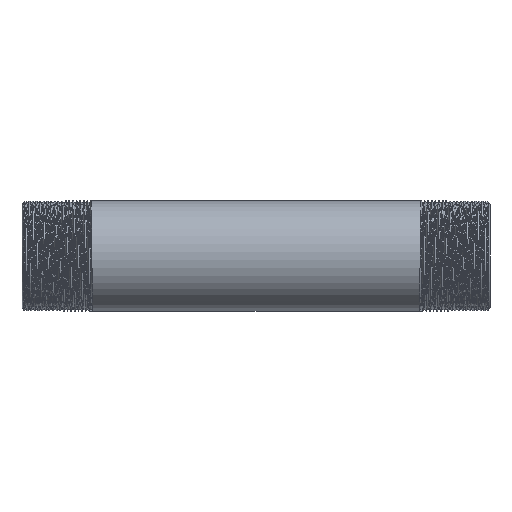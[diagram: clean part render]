
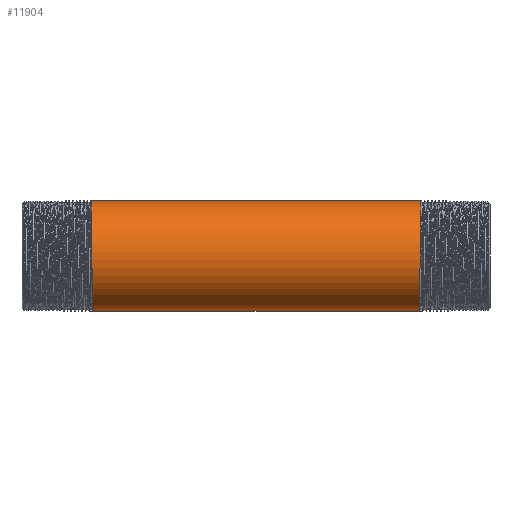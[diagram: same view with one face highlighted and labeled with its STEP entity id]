
A CAD part, front view. The second image highlights one B-rep face of the part: STEP entity #11904.
In plain terms, the highlighted cylindrical face has radius 10.65 mm (diameter 21.3 mm), a partial arc.
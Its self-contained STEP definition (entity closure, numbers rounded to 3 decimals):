
#827 = DIRECTION ( 'NONE',  ( -1., 0., 0. ) ) ;
#974 = CARTESIAN_POINT ( 'NONE',  ( -149.494, 0., 10.65 ) ) ;
#1012 = CARTESIAN_POINT ( 'NONE',  ( -31.446, -6.149, -10.65 ) ) ;
#1216 = VECTOR ( 'NONE', #9515, 1000. ) ;
#2406 = CARTESIAN_POINT ( 'NONE',  ( 31.621, -9.223, 5.325 ) ) ;
#2761 = CARTESIAN_POINT ( 'NONE',  ( -149.494, 0., -10.65 ) ) ;
#3285 = VECTOR ( 'NONE', #827, 1000. ) ;
#3334 = CYLINDRICAL_SURFACE ( 'NONE', #12228, 10.65 ) ;
#3737 = CARTESIAN_POINT ( 'NONE',  ( 31.446, -6.149, -10.65 ) ) ;
#3877 = CARTESIAN_POINT ( 'NONE',  ( 31.679, -6.149, 10.65 ) ) ;
#3910 = VERTEX_POINT ( 'NONE', #11352 ) ;
#4835 = ORIENTED_EDGE ( 'NONE', *, *, #9713, .T. ) ;
#5060 = LINE ( 'NONE', #2761, #3285 ) ;
#6119 = CARTESIAN_POINT ( 'NONE',  ( 31.738, 0., 10.65 ) ) ;
#6500 = DIRECTION ( 'NONE',  ( 0., 0., 1. ) ) ;
#6520 = LINE ( 'NONE', #974, #1216 ) ;
#6648 = CARTESIAN_POINT ( 'NONE',  ( -149.494, 0., 0. ) ) ;
#6762 = CARTESIAN_POINT ( 'NONE',  ( -31.679, -6.149, 10.65 ) ) ;
#7232 = EDGE_CURVE ( 'NONE', #3910, #10670, #6520, .T. ) ;
#7706 = CARTESIAN_POINT ( 'NONE',  ( -31.621, -9.223, 5.325 ) ) ;
#7722 = DIRECTION ( 'NONE',  ( -1., 0., 0. ) ) ;
#7776 = CARTESIAN_POINT ( 'NONE',  ( -31.563, -12.298, 0. ) ) ;
#7788 = CARTESIAN_POINT ( 'NONE',  ( -31.388, 0., -10.65 ) ) ;
#7842 = EDGE_CURVE ( 'NONE', #9894, #10670, #13400, .T. ) ;
#8133 = CARTESIAN_POINT ( 'NONE',  ( 31.504, -9.223, -5.325 ) ) ;
#8500 = CARTESIAN_POINT ( 'NONE',  ( -31.738, 0., 10.65 ) ) ;
#8722 = ORIENTED_EDGE ( 'NONE', *, *, #7842, .F. ) ;
#8800 = FACE_OUTER_BOUND ( 'NONE', #9626, .T. ) ;
#9438 =( BOUNDED_CURVE ( )  B_SPLINE_CURVE ( 2, ( #11586, #3737, #8133, #12261, #2406, #3877, #6119 ),
 .UNSPECIFIED., .F., .F. ) 
 B_SPLINE_CURVE_WITH_KNOTS ( ( 3, 2, 2, 3 ),
 ( 0., 0.006, 0.013, 0.019 ),
 .UNSPECIFIED. ) 
 CURVE ( )  GEOMETRIC_REPRESENTATION_ITEM ( )  RATIONAL_B_SPLINE_CURVE ( ( 1., 0.866, 1., 0.866, 1., 0.866, 1. ) ) 
 REPRESENTATION_ITEM ( '' )  );
#9515 = DIRECTION ( 'NONE',  ( -1., 0., 0. ) ) ;
#9609 = ORIENTED_EDGE ( 'NONE', *, *, #7232, .T. ) ;
#9626 = EDGE_LOOP ( 'NONE', ( #11705, #4835, #9609, #8722 ) ) ;
#9713 = EDGE_CURVE ( 'NONE', #12052, #3910, #9438, .T. ) ;
#9894 = VERTEX_POINT ( 'NONE', #7788 ) ;
#10060 = CARTESIAN_POINT ( 'NONE',  ( -31.388, 0., -10.65 ) ) ;
#10670 = VERTEX_POINT ( 'NONE', #8500 ) ;
#10872 = CARTESIAN_POINT ( 'NONE',  ( -31.738, 0., 10.65 ) ) ;
#11352 = CARTESIAN_POINT ( 'NONE',  ( 31.738, 0., 10.65 ) ) ;
#11586 = CARTESIAN_POINT ( 'NONE',  ( 31.388, 0., -10.65 ) ) ;
#11705 = ORIENTED_EDGE ( 'NONE', *, *, #13695, .F. ) ;
#11904 = ADVANCED_FACE ( 'NONE', ( #8800 ), #3334, .T. ) ;
#12052 = VERTEX_POINT ( 'NONE', #13253 ) ;
#12223 = CARTESIAN_POINT ( 'NONE',  ( -31.504, -9.223, -5.325 ) ) ;
#12228 = AXIS2_PLACEMENT_3D ( 'NONE', #6648, #7722, #6500 ) ;
#12261 = CARTESIAN_POINT ( 'NONE',  ( 31.563, -12.298, 0. ) ) ;
#13253 = CARTESIAN_POINT ( 'NONE',  ( 31.388, 0., -10.65 ) ) ;
#13400 =( BOUNDED_CURVE ( )  B_SPLINE_CURVE ( 2, ( #10060, #1012, #12223, #7776, #7706, #6762, #10872 ),
 .UNSPECIFIED., .F., .F. ) 
 B_SPLINE_CURVE_WITH_KNOTS ( ( 3, 2, 2, 3 ),
 ( 0., 0.006, 0.013, 0.019 ),
 .UNSPECIFIED. ) 
 CURVE ( )  GEOMETRIC_REPRESENTATION_ITEM ( )  RATIONAL_B_SPLINE_CURVE ( ( 1., 0.866, 1., 0.866, 1., 0.866, 1. ) ) 
 REPRESENTATION_ITEM ( '' )  );
#13695 = EDGE_CURVE ( 'NONE', #12052, #9894, #5060, .T. ) ;
